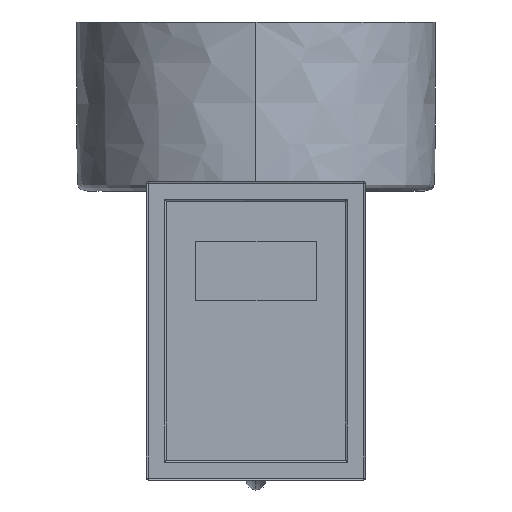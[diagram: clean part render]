
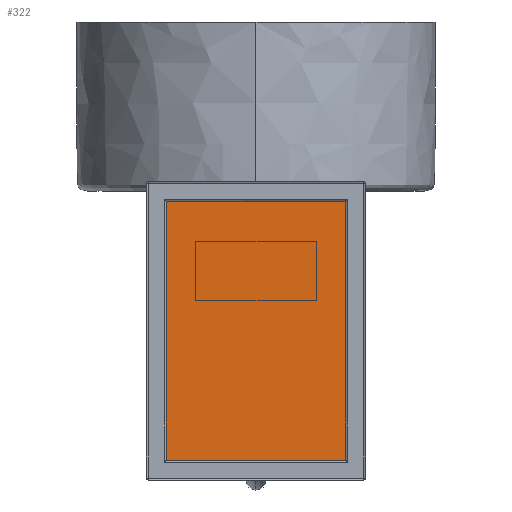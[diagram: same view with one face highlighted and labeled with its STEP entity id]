
A CAD part, left-side view. The second image highlights one B-rep face of the part: STEP entity #322.
In plain terms, the highlighted planar face has unit normal (1, 0, 0).
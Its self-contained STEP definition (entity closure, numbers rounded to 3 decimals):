
#159=PLANE('',#2582);
#322=ADVANCED_FACE('',(#486),#159,.T.);
#486=FACE_OUTER_BOUND('',#651,.T.);
#651=EDGE_LOOP('',(#1234,#1235,#1236,#1237));
#1234=ORIENTED_EDGE('',*,*,#1588,.T.);
#1235=ORIENTED_EDGE('',*,*,#1591,.T.);
#1236=ORIENTED_EDGE('',*,*,#1593,.T.);
#1237=ORIENTED_EDGE('',*,*,#1594,.T.);
#1588=EDGE_CURVE('',#2146,#2145,#1975,.T.);
#1591=EDGE_CURVE('',#2145,#2147,#1978,.T.);
#1593=EDGE_CURVE('',#2147,#2148,#1980,.T.);
#1594=EDGE_CURVE('',#2148,#2146,#1981,.T.);
#1975=B_SPLINE_CURVE_WITH_KNOTS('',1,(#6871,#6872),.UNSPECIFIED.,.F.,.F.,
(2,2),(-4.,-3.),.UNSPECIFIED.);
#1978=B_SPLINE_CURVE_WITH_KNOTS('',1,(#6877,#6878),.UNSPECIFIED.,.F.,.F.,
(2,2),(-3.,-2.),.UNSPECIFIED.);
#1980=B_SPLINE_CURVE_WITH_KNOTS('',1,(#6881,#6882),.UNSPECIFIED.,.F.,.F.,
(2,2),(-2.,-1.),.UNSPECIFIED.);
#1981=B_SPLINE_CURVE_WITH_KNOTS('',1,(#6883,#6884),.UNSPECIFIED.,.F.,.F.,
(2,2),(-1.,0.),.UNSPECIFIED.);
#2145=VERTEX_POINT('',#6805);
#2146=VERTEX_POINT('',#6806);
#2147=VERTEX_POINT('',#6807);
#2148=VERTEX_POINT('',#6808);
#2582=AXIS2_PLACEMENT_3D('',#6722,#2930,$);
#2930=DIRECTION('',(1.,0.,0.));
#6722=CARTESIAN_POINT('',(239.192,1144.085,-891.887));
#6805=CARTESIAN_POINT('',(239.192,1054.085,-1021.887));
#6806=CARTESIAN_POINT('',(239.192,1054.085,-891.887));
#6807=CARTESIAN_POINT('',(239.192,1144.085,-1021.887));
#6808=CARTESIAN_POINT('',(239.192,1144.085,-891.887));
#6871=CARTESIAN_POINT('',(239.192,1054.085,-891.887));
#6872=CARTESIAN_POINT('',(239.192,1054.085,-1021.887));
#6877=CARTESIAN_POINT('',(239.192,1054.085,-1021.887));
#6878=CARTESIAN_POINT('',(239.192,1144.085,-1021.887));
#6881=CARTESIAN_POINT('',(239.192,1144.085,-1021.887));
#6882=CARTESIAN_POINT('',(239.192,1144.085,-891.887));
#6883=CARTESIAN_POINT('',(239.192,1144.085,-891.887));
#6884=CARTESIAN_POINT('',(239.192,1054.085,-891.887));
